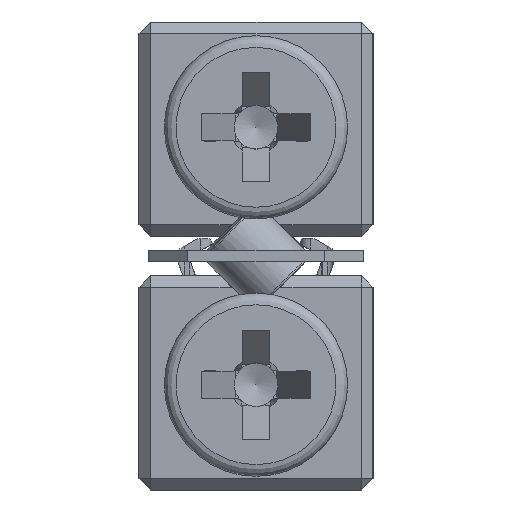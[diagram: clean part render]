
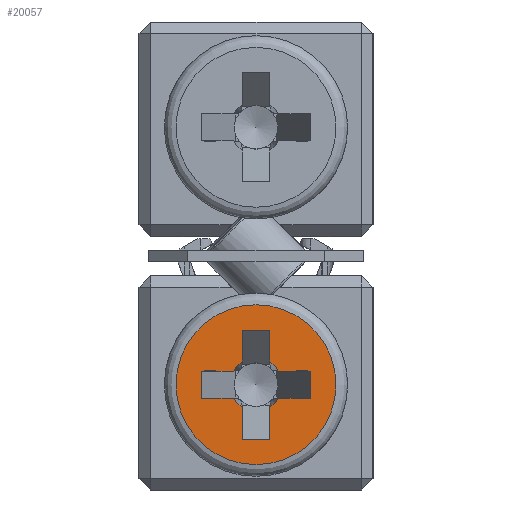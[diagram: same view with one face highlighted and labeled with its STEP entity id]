
A CAD part, left-side view. The second image highlights one B-rep face of the part: STEP entity #20057.
In plain terms, the highlighted planar face has unit normal (-1, 0, 0).
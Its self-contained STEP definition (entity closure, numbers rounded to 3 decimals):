
#16 = DIRECTION ( 'NONE',  ( 0., 0., 1. ) ) ;
#22 = DIRECTION ( 'NONE',  ( -1., 0., 0. ) ) ;
#224 = DIRECTION ( 'NONE',  ( -1., 0., 0. ) ) ;
#292 = CARTESIAN_POINT ( 'NONE',  ( -91.5, 1.4, 3.05 ) ) ;
#396 = DIRECTION ( 'NONE',  ( 0., 1., 0. ) ) ;
#731 = VERTEX_POINT ( 'NONE', #37190 ) ;
#1171 = CARTESIAN_POINT ( 'NONE',  ( -91.5, 1.4, 3.05 ) ) ;
#1720 = EDGE_CURVE ( 'NONE', #23738, #36780, #17003, .T. ) ;
#1886 = LINE ( 'NONE', #13959, #36962 ) ;
#1964 = LINE ( 'NONE', #17407, #24766 ) ;
#2159 = LINE ( 'NONE', #13504, #19758 ) ;
#2677 = DIRECTION ( 'NONE',  ( 1., 0., 0. ) ) ;
#3438 = VECTOR ( 'NONE', #16, 1000. ) ;
#3605 = EDGE_CURVE ( 'NONE', #9961, #36780, #19551, .T. ) ;
#3666 = VERTEX_POINT ( 'NONE', #11250 ) ;
#4976 = LINE ( 'NONE', #34604, #33702 ) ;
#5051 = CARTESIAN_POINT ( 'NONE',  ( -91.5, -0.35, 1.3 ) ) ;
#5385 = DIRECTION ( 'NONE',  ( -1., 0., 0. ) ) ;
#6050 = DIRECTION ( 'NONE',  ( 0., 0., -1. ) ) ;
#6109 = CARTESIAN_POINT ( 'NONE',  ( -91.5, -0.581, 2.35 ) ) ;
#6777 = EDGE_CURVE ( 'NONE', #20399, #21809, #2159, .T. ) ;
#6837 = CIRCLE ( 'NONE', #23241, 0.678 ) ;
#6858 = CARTESIAN_POINT ( 'NONE',  ( -91.5, 0.35, 1.3 ) ) ;
#6932 = DIRECTION ( 'NONE',  ( 0., -1., 0. ) ) ;
#7163 = CARTESIAN_POINT ( 'NONE',  ( -91.5, -1.4, 2.35 ) ) ;
#7530 = DIRECTION ( 'NONE',  ( 0., 0., -1. ) ) ;
#7948 = ORIENTED_EDGE ( 'NONE', *, *, #28952, .F. ) ;
#8090 = VECTOR ( 'NONE', #396, 1000. ) ;
#8153 = CIRCLE ( 'NONE', #27701, 0.678 ) ;
#8273 = CARTESIAN_POINT ( 'NONE',  ( -91.5, 1.4, 2.35 ) ) ;
#8467 = ORIENTED_EDGE ( 'NONE', *, *, #24950, .T. ) ;
#8863 = VERTEX_POINT ( 'NONE', #5051 ) ;
#9154 = ORIENTED_EDGE ( 'NONE', *, *, #6777, .F. ) ;
#9207 = AXIS2_PLACEMENT_3D ( 'NONE', #30274, #224, #11508 ) ;
#9800 = ORIENTED_EDGE ( 'NONE', *, *, #14205, .T. ) ;
#9820 = CARTESIAN_POINT ( 'NONE',  ( -91.5, -0.35, 3.281 ) ) ;
#9961 = VERTEX_POINT ( 'NONE', #292 ) ;
#10149 = ORIENTED_EDGE ( 'NONE', *, *, #19480, .T. ) ;
#10306 = CARTESIAN_POINT ( 'NONE',  ( -91.5, 0., 0.65 ) ) ;
#10480 = CIRCLE ( 'NONE', #32534, 2.05 ) ;
#10684 = AXIS2_PLACEMENT_3D ( 'NONE', #20780, #22, #24137 ) ;
#11032 = CARTESIAN_POINT ( 'NONE',  ( -91.5, 0.35, 1.3 ) ) ;
#11104 = ORIENTED_EDGE ( 'NONE', *, *, #35113, .T. ) ;
#11114 = AXIS2_PLACEMENT_3D ( 'NONE', #39021, #2677, #6050 ) ;
#11250 = CARTESIAN_POINT ( 'NONE',  ( -91.5, -0.35, 2.119 ) ) ;
#11471 = CARTESIAN_POINT ( 'NONE',  ( -91.5, 0., 2.7 ) ) ;
#11508 = DIRECTION ( 'NONE',  ( 0., 0., 1. ) ) ;
#12017 = VECTOR ( 'NONE', #12983, 1000. ) ;
#12260 = EDGE_CURVE ( 'NONE', #28797, #14597, #26861, .T. ) ;
#12331 = EDGE_LOOP ( 'NONE', ( #7948, #11104, #25009, #25154, #16309, #35806, #27177, #20914, #14185, #20894, #9154, #8467, #25968, #24331, #13428, #9800 ) ) ;
#12743 = DIRECTION ( 'NONE',  ( 0., -1., 0. ) ) ;
#12922 = CARTESIAN_POINT ( 'NONE',  ( -91.5, 0.581, 2.35 ) ) ;
#12983 = DIRECTION ( 'NONE',  ( 0., 0., 1. ) ) ;
#13234 = CARTESIAN_POINT ( 'NONE',  ( -91.5, 0., 2.7 ) ) ;
#13428 = ORIENTED_EDGE ( 'NONE', *, *, #21674, .F. ) ;
#13504 = CARTESIAN_POINT ( 'NONE',  ( -91.5, -0.35, 4.1 ) ) ;
#13627 = EDGE_CURVE ( 'NONE', #9961, #15232, #1964, .T. ) ;
#13704 = CARTESIAN_POINT ( 'NONE',  ( -91.5, -1.4, 2.35 ) ) ;
#13959 = CARTESIAN_POINT ( 'NONE',  ( -91.5, 0.35, 1.3 ) ) ;
#14075 = VERTEX_POINT ( 'NONE', #11032 ) ;
#14185 = ORIENTED_EDGE ( 'NONE', *, *, #1720, .F. ) ;
#14205 = EDGE_CURVE ( 'NONE', #26979, #23575, #32935, .T. ) ;
#14275 = DIRECTION ( 'NONE',  ( 0., 0., 1. ) ) ;
#14597 = VERTEX_POINT ( 'NONE', #23965 ) ;
#14636 = DIRECTION ( 'NONE',  ( -1., 0., 0. ) ) ;
#14854 = VECTOR ( 'NONE', #16902, 1000. ) ;
#15232 = VERTEX_POINT ( 'NONE', #8273 ) ;
#15271 = CARTESIAN_POINT ( 'NONE',  ( -91.5, -0.581, 3.05 ) ) ;
#15286 = VERTEX_POINT ( 'NONE', #9820 ) ;
#16309 = ORIENTED_EDGE ( 'NONE', *, *, #12260, .F. ) ;
#16812 = VERTEX_POINT ( 'NONE', #10306 ) ;
#16902 = DIRECTION ( 'NONE',  ( 0., 0., -1. ) ) ;
#17003 = CIRCLE ( 'NONE', #10684, 0.678 ) ;
#17136 = VECTOR ( 'NONE', #31816, 1000. ) ;
#17407 = CARTESIAN_POINT ( 'NONE',  ( -91.5, 1.4, 3.05 ) ) ;
#19127 = EDGE_CURVE ( 'NONE', #25732, #731, #36627, .T. ) ;
#19154 = DIRECTION ( 'NONE',  ( -1., 0., 0. ) ) ;
#19258 = CARTESIAN_POINT ( 'NONE',  ( -91.5, -0.35, 4.1 ) ) ;
#19274 = CARTESIAN_POINT ( 'NONE',  ( -91.5, -0.35, 4.1 ) ) ;
#19480 = EDGE_CURVE ( 'NONE', #16812, #16812, #10480, .T. ) ;
#19551 = LINE ( 'NONE', #1171, #39010 ) ;
#19617 = DIRECTION ( 'NONE',  ( 0., 1., 0. ) ) ;
#19758 = VECTOR ( 'NONE', #19617, 1000. ) ;
#19985 = DIRECTION ( 'NONE',  ( 0., 0., 1. ) ) ;
#20037 = EDGE_CURVE ( 'NONE', #14075, #8863, #1886, .T. ) ;
#20057 = ADVANCED_FACE ( 'NONE', ( #23630, #29377 ), #20472, .F. ) ;
#20155 = CARTESIAN_POINT ( 'NONE',  ( -91.5, -0.35, 4.1 ) ) ;
#20399 = VERTEX_POINT ( 'NONE', #19258 ) ;
#20472 = PLANE ( 'NONE',  #11114 ) ;
#20780 = CARTESIAN_POINT ( 'NONE',  ( -91.5, 0., 2.7 ) ) ;
#20853 = CARTESIAN_POINT ( 'NONE',  ( -91.5, 0.581, 3.05 ) ) ;
#20894 = ORIENTED_EDGE ( 'NONE', *, *, #23082, .T. ) ;
#20914 = ORIENTED_EDGE ( 'NONE', *, *, #3605, .T. ) ;
#21674 = EDGE_CURVE ( 'NONE', #26979, #731, #4976, .T. ) ;
#21809 = VERTEX_POINT ( 'NONE', #26515 ) ;
#22102 = CARTESIAN_POINT ( 'NONE',  ( -91.5, 0.35, 3.281 ) ) ;
#23082 = EDGE_CURVE ( 'NONE', #23738, #21809, #35970, .T. ) ;
#23241 = AXIS2_PLACEMENT_3D ( 'NONE', #11471, #14636, #27278 ) ;
#23362 = CARTESIAN_POINT ( 'NONE',  ( -91.5, 0., 2.7 ) ) ;
#23575 = VERTEX_POINT ( 'NONE', #6109 ) ;
#23630 = FACE_OUTER_BOUND ( 'NONE', #24459, .T. ) ;
#23693 = VECTOR ( 'NONE', #12743, 1000. ) ;
#23738 = VERTEX_POINT ( 'NONE', #22102 ) ;
#23965 = CARTESIAN_POINT ( 'NONE',  ( -91.5, 0.35, 2.119 ) ) ;
#24137 = DIRECTION ( 'NONE',  ( 0., 0., 1. ) ) ;
#24331 = ORIENTED_EDGE ( 'NONE', *, *, #19127, .T. ) ;
#24459 = EDGE_LOOP ( 'NONE', ( #10149 ) ) ;
#24766 = VECTOR ( 'NONE', #7530, 1000. ) ;
#24950 = EDGE_CURVE ( 'NONE', #20399, #15286, #25791, .T. ) ;
#25009 = ORIENTED_EDGE ( 'NONE', *, *, #20037, .F. ) ;
#25154 = ORIENTED_EDGE ( 'NONE', *, *, #30953, .T. ) ;
#25732 = VERTEX_POINT ( 'NONE', #15271 ) ;
#25791 = LINE ( 'NONE', #19274, #14854 ) ;
#25968 = ORIENTED_EDGE ( 'NONE', *, *, #26042, .F. ) ;
#26012 = DIRECTION ( 'NONE',  ( 0., -1., 0. ) ) ;
#26042 = EDGE_CURVE ( 'NONE', #25732, #15286, #6837, .T. ) ;
#26515 = CARTESIAN_POINT ( 'NONE',  ( -91.5, 0.35, 4.1 ) ) ;
#26861 = CIRCLE ( 'NONE', #9207, 0.678 ) ;
#26979 = VERTEX_POINT ( 'NONE', #7163 ) ;
#27097 = CARTESIAN_POINT ( 'NONE',  ( -91.5, 0.35, 1.3 ) ) ;
#27177 = ORIENTED_EDGE ( 'NONE', *, *, #13627, .F. ) ;
#27278 = DIRECTION ( 'NONE',  ( 0., 0., 1. ) ) ;
#27701 = AXIS2_PLACEMENT_3D ( 'NONE', #23362, #5385, #14275 ) ;
#27869 = EDGE_CURVE ( 'NONE', #28797, #15232, #33003, .T. ) ;
#28797 = VERTEX_POINT ( 'NONE', #12922 ) ;
#28952 = EDGE_CURVE ( 'NONE', #3666, #23575, #8153, .T. ) ;
#29377 = FACE_BOUND ( 'NONE', #12331, .T. ) ;
#30185 = LINE ( 'NONE', #6858, #12017 ) ;
#30274 = CARTESIAN_POINT ( 'NONE',  ( -91.5, 0., 2.7 ) ) ;
#30953 = EDGE_CURVE ( 'NONE', #14075, #14597, #30185, .T. ) ;
#31402 = DIRECTION ( 'NONE',  ( 0., 0., -1. ) ) ;
#31816 = DIRECTION ( 'NONE',  ( 0., 0., -1. ) ) ;
#32534 = AXIS2_PLACEMENT_3D ( 'NONE', #13234, #19154, #31402 ) ;
#32935 = LINE ( 'NONE', #13704, #38690 ) ;
#33003 = LINE ( 'NONE', #35964, #8090 ) ;
#33702 = VECTOR ( 'NONE', #19985, 1000. ) ;
#34445 = DIRECTION ( 'NONE',  ( 0., 1., 0. ) ) ;
#34604 = CARTESIAN_POINT ( 'NONE',  ( -91.5, -1.4, 2.35 ) ) ;
#35113 = EDGE_CURVE ( 'NONE', #3666, #8863, #35169, .T. ) ;
#35169 = LINE ( 'NONE', #20155, #17136 ) ;
#35806 = ORIENTED_EDGE ( 'NONE', *, *, #27869, .T. ) ;
#35964 = CARTESIAN_POINT ( 'NONE',  ( -91.5, -1.4, 2.35 ) ) ;
#35970 = LINE ( 'NONE', #27097, #3438 ) ;
#36434 = CARTESIAN_POINT ( 'NONE',  ( -91.5, 1.4, 3.05 ) ) ;
#36627 = LINE ( 'NONE', #36434, #23693 ) ;
#36780 = VERTEX_POINT ( 'NONE', #20853 ) ;
#36962 = VECTOR ( 'NONE', #26012, 1000. ) ;
#37190 = CARTESIAN_POINT ( 'NONE',  ( -91.5, -1.4, 3.05 ) ) ;
#38690 = VECTOR ( 'NONE', #34445, 1000. ) ;
#39010 = VECTOR ( 'NONE', #6932, 1000. ) ;
#39021 = CARTESIAN_POINT ( 'NONE',  ( -91.5, 2.35, 2.7 ) ) ;
